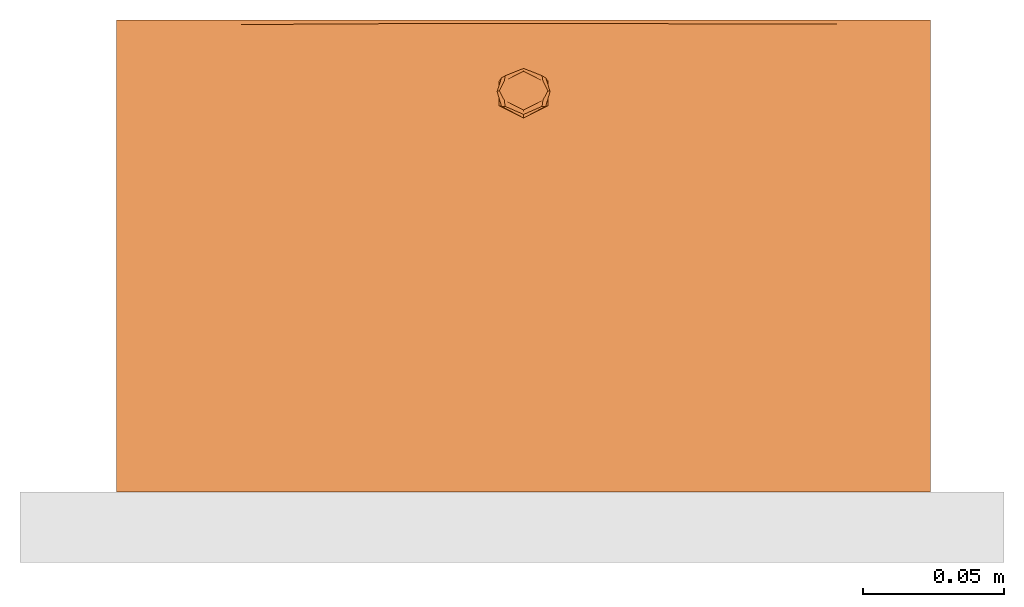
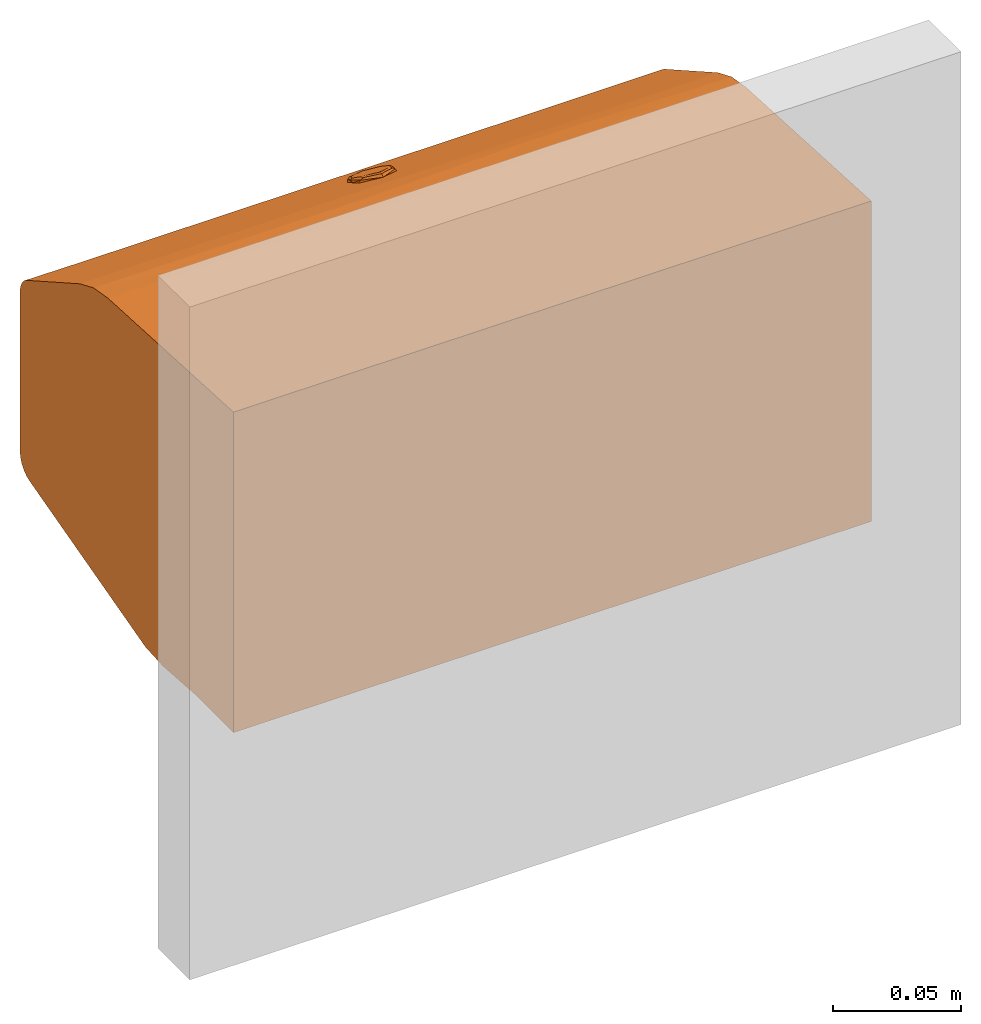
# One storey, part 2 of 2: 1 proxy.
"""IFC2X3 building model written with IfcOpenShell, lengths in millimetres."""

from ifc_helpers import new_model, entity, si_unit, converted_unit, derived_unit, direction, frame, origin, place, context, subcontext, project, spatial, faceted_brep, source, transform, mapped, material, material_list, element, save


model = new_model("IFC2X3")

# Units and contexts
model_context = context("Model", 3, precision=1e-05, world=origin(), true_north=direction((2.0, 6.12303176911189e-17, 1.0)))
context_of_model = context(None, 3, precision=1e-05, world=origin(), true_north=direction((2.0, 6.12303176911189e-17, 1.0)))
body_context = subcontext(model_context, "Body", "Model", "MODEL_VIEW")
ifc_project = project(units=[si_unit("LENGTHUNIT", "METRE", prefix="MILLI"), si_unit("AREAUNIT", "SQUARE_METRE"), si_unit("VOLUMEUNIT", "CUBIC_METRE"), converted_unit("PLANEANGLEUNIT", "DEGREE", entity("IfcRatioMeasure", 0.0174532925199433), si_unit("PLANEANGLEUNIT", "RADIAN"), dimensions=[0, 0, 0, 0, 0, 0, 0]), si_unit("MASSUNIT", "GRAM", prefix="KILO"), si_unit("TIMEUNIT", "SECOND"), si_unit("THERMODYNAMICTEMPERATUREUNIT", "KELVIN"), derived_unit("THERMALTRANSMITTANCEUNIT", [(si_unit("MASSUNIT", "GRAM", prefix="KILO"), 1), (si_unit("THERMODYNAMICTEMPERATUREUNIT", "KELVIN"), -1), (si_unit("TIMEUNIT", "SECOND"), -3)]), derived_unit("VOLUMETRICFLOWRATEUNIT", [(si_unit("LENGTHUNIT", "METRE"), 3), (si_unit("TIMEUNIT", "SECOND"), -1)]), si_unit("POWERUNIT", "WATT")], contexts=[model_context, context_of_model])

# Site, building, storey
site_placement = place(None, origin())
site = spatial("IfcSite", under=ifc_project, at=site_placement, Name="Default", CompositionType="ELEMENT")
building_placement = place(site_placement, origin())
building = spatial("IfcBuilding", under=site, at=building_placement, CompositionType="ELEMENT")
storey_placement = place(building_placement, origin())
storey = spatial("IfcBuildingStorey", under=building, at=storey_placement, Name="Level 1", CompositionType="ELEMENT", Elevation=0.0)

# Proxy
ifc_material = material(Name="White Metal")
ifc_material_list = material_list([ifc_material])
shared_shape = source(origin(), body_context, "Body", "Brep", [
    faceted_brep([(125.0, -141.014224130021, 56.5982053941), (125.0, -149.715199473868, 51.6719280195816), (116.340820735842, -145.364711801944, 54.1350667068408), (116.340820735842, -141.014224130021, 56.5982053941), (133.659179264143, -145.364711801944, 54.1350667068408), (116.340820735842, -136.663736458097, 59.0613440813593), (125.0, -132.313248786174, 61.5244827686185), (133.659179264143, -136.663736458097, 59.0613440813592), (133.659179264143, -141.014224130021, 56.5982053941), (117.182672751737, -136.467965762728, 60.2951720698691), (125.0, -134.591624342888, 62.3335412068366), (118.484568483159, -136.435443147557, 61.159283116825), (118.168601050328, -138.586823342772, 60.3161144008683), (125.0, -135.154636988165, 62.2593335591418), (118.484568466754, -147.281115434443, 55.0187312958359), (125.0, -149.236692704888, 54.0418651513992), (118.168601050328, -145.451196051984, 56.4296760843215), (116.400863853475, -141.958281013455, 58.2656339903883), (115.621853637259, -141.71590460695, 57.837539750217), (117.182672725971, -146.523423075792, 54.6020204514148), (125.0, -149.868117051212, 53.2473056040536), (125.0, -148.883382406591, 54.486456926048), (125.0, -133.585426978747, 62.4661626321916), (132.817327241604, -146.523423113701, 54.6020204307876), (131.515431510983, -147.281115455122, 55.0187312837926), (131.831398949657, -145.451196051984, 56.4296760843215), (131.515431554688, -136.435443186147, 61.1592830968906), (131.831398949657, -138.586823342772, 60.3161144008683), (133.5991361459, -141.958281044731, 58.265633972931), (134.378146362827, -141.715904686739, 57.8375397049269), (132.817327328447, -136.467965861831, 60.2951720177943), (125.0, -142.019009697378, 58.3728952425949)], [[[0, 1, 2]], [[0, 2, 3]], [[0, 4, 1]], [[0, 3, 5]], [[5, 6, 0]], [[6, 7, 0]], [[0, 7, 8]], [[0, 8, 4]], [[5, 9, 6]], [[10, 11, 12]], [[12, 13, 10]], [[14, 15, 16]], [[14, 16, 17]], [[11, 18, 17]], [[11, 17, 12]], [[14, 18, 19]], [[1, 20, 19]], [[3, 18, 9]], [[15, 21, 16]], [[18, 14, 17]], [[10, 22, 11]], [[3, 9, 5]], [[3, 19, 18]], [[16, 12, 17]], [[20, 15, 14]], [[18, 11, 9]], [[11, 22, 9]], [[6, 9, 22]], [[1, 19, 2]], [[20, 14, 19]], [[19, 3, 2]], [[4, 23, 1]], [[15, 24, 25]], [[25, 21, 15]], [[26, 10, 27]], [[26, 27, 28]], [[24, 29, 28]], [[24, 28, 25]], [[26, 29, 30]], [[6, 22, 30]], [[8, 29, 23]], [[10, 13, 27]], [[29, 26, 28]], [[15, 20, 24]], [[8, 23, 4]], [[8, 30, 29]], [[27, 25, 28]], [[22, 10, 26]], [[29, 24, 23]], [[24, 20, 23]], [[1, 23, 20]], [[6, 30, 7]], [[22, 26, 30]], [[30, 8, 7]], [[16, 21, 31]], [[31, 12, 16]], [[21, 25, 31]], [[27, 31, 25]], [[31, 27, 13]], [[31, 13, 12]]]),
    faceted_brep([(269.0, -30.0, -73.0), (269.0, 0.0, -73.0), (269.0, 0.0, 80.0), (269.0, -98.0839131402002, 74.8596399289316), (269.0, -109.465883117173, 72.9285225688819), (269.0, -120.101559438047, 68.4384397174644), (269.0, -161.926888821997, 44.7579710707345), (269.0, -163.641085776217, 43.532277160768), (269.0, -165.060365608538, 41.9745732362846), (269.0, -166.121700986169, 40.1540337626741), (269.0, -166.777960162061, 38.1515051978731), (269.0, -167.0, 36.0559157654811), (269.0, -167.0, -39.8857007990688), (269.0, -166.659258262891, -42.4738912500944), (269.0, -165.660254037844, -44.8857007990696), (269.0, -164.071067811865, -46.9567686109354), (269.0, -162.0, -48.5459548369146), (269.0, -159.588190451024, -49.544959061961), (269.0, -68.7583880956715, -73.8827312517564), (269.0, -55.1241262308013, -74.6991541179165), (267.0, -159.588190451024, -49.544959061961), (267.0, -162.0, -48.5459548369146), (267.0, -164.071067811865, -46.9567686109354), (267.0, -165.660254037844, -44.8857007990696), (267.0, -166.659258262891, -42.4738912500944), (267.0, -167.0, -39.8857007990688), (267.0, -167.0, 36.0559157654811), (267.0, -166.777960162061, 38.1515051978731), (267.0, -166.121700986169, 40.1540337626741), (267.0, -165.060365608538, 41.9745732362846), (267.0, -163.641085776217, 43.532277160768), (267.0, -161.926888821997, 44.7579710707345), (267.0, -120.101559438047, 68.4384397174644), (267.0, -109.465883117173, 72.9285225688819), (267.0, -98.0839131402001, 74.8596399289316), (267.0, 0.0, 80.0), (267.0, 0.0, -73.0), (267.0, -30.0, -73.0), (267.0, -55.1241262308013, -74.6991541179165), (267.0, -68.7583880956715, -73.8827312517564)], [[[0, 1, 2, 3, 4, 5, 6, 7, 8, 9, 10, 11, 12, 13, 14, 15, 16, 17, 18, 19]], [[20, 21, 22, 23, 24, 25, 26, 27, 28, 29, 30, 31, 32, 33, 34, 35, 36, 37, 38, 39]], [[3, 2, 35, 34]], [[3, 34, 33, 4]], [[33, 32, 5, 4]], [[6, 5, 32, 31]], [[7, 6, 31, 30]], [[8, 7, 30, 29]], [[29, 28, 9, 8]], [[10, 9, 28, 27]], [[11, 10, 27, 26]], [[12, 11, 26, 25]], [[13, 12, 25, 24]], [[14, 13, 24, 23]], [[23, 22, 15, 14]], [[16, 15, 22, 21]], [[17, 16, 21, 20]], [[18, 17, 20, 39]], [[19, 18, 39, 38]], [[0, 19, 38, 37]], [[1, 0, 37, 36]], [[2, 1, 36, 35]]]),
    faceted_brep([(-17.0, -98.0839131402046, 74.8596399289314), (-17.0, -109.465883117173, 72.9285225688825), (-17.0, -120.101559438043, 68.4384397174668), (-17.0, -161.926888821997, 44.7579710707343), (-17.0, -163.641085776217, 43.5322771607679), (-17.0, -165.060365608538, 41.9745732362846), (-17.0, -166.121700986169, 40.1540337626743), (-17.0, -166.777960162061, 38.1515051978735), (-17.0, -167.0, 36.0559157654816), (-17.0, -167.0, -39.8857007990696), (-17.0, -166.659258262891, -42.4738912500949), (-17.0, -165.660254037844, -44.8857007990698), (-17.0, -164.071067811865, -46.9567686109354), (-17.0, -162.0, -48.5459548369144), (-17.0, -159.588190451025, -49.5449590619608), (-17.0, -68.7583880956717, -73.8827312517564), (-17.0, -55.1241262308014, -74.6991541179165), (-17.0, -30.0, -73.0), (-17.0, 0.0, -73.0), (-17.0, 0.0, 80.0), (-19.0, -159.588190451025, -49.5449590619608), (-19.0, -162.0, -48.5459548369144), (-19.0, -164.071067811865, -46.9567686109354), (-19.0, -165.660254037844, -44.8857007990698), (-19.0, -166.659258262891, -42.4738912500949), (-19.0, -167.0, -39.8857007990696), (-19.0, -167.0, 36.0559157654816), (-19.0, -166.777960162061, 38.1515051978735), (-19.0, -166.121700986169, 40.1540337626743), (-19.0, -165.060365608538, 41.9745732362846), (-19.0, -163.641085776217, 43.5322771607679), (-19.0, -161.926888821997, 44.7579710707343), (-19.0, -120.101559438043, 68.4384397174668), (-19.0, -109.465883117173, 72.9285225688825), (-19.0, -98.0839131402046, 74.8596399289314), (-19.0, 0.0, 80.0), (-19.0, 0.0, -73.0), (-19.0, -30.0, -73.0), (-19.0, -55.1241262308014, -74.6991541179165), (-19.0, -68.7583880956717, -73.8827312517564)], [[[0, 1, 2, 3, 4, 5, 6, 7, 8, 9, 10, 11, 12, 13, 14, 15, 16, 17, 18, 19]], [[20, 21, 22, 23, 24, 25, 26, 27, 28, 29, 30, 31, 32, 33, 34, 35, 36, 37, 38, 39]], [[19, 18, 36, 35]], [[0, 19, 35, 34]], [[0, 34, 33, 1]], [[33, 32, 2, 1]], [[3, 2, 32, 31]], [[4, 3, 31, 30]], [[5, 4, 30, 29]], [[29, 28, 6, 5]], [[7, 6, 28, 27]], [[8, 7, 27, 26]], [[9, 8, 26, 25]], [[10, 9, 25, 24]], [[11, 10, 24, 23]], [[23, 22, 12, 11]], [[13, 12, 22, 21]], [[14, 13, 21, 20]], [[15, 14, 20, 39]], [[16, 15, 39, 38]], [[17, 16, 38, 37]], [[18, 17, 37, 36]]]),
    faceted_brep([(269.0, -30.0, -73.0), (269.0, 0.0, -73.0), (269.0, 0.0, 80.0), (269.0, -98.0839131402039, 74.8596399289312), (269.0, -109.465883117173, 72.9285225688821), (269.0, -120.101559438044, 68.4384397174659), (269.0, -161.926888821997, 44.7579710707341), (269.0, -163.641085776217, 43.5322771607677), (269.0, -165.060365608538, 41.9745732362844), (269.0, -166.121700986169, 40.1540337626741), (269.0, -166.777960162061, 38.1515051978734), (269.0, -167.0, 36.0559157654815), (269.0, -167.0, -39.8857007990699), (269.0, -166.659258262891, -42.4738912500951), (269.0, -165.660254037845, -44.8857007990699), (269.0, -164.071067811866, -46.9567686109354), (269.0, -162.0, -48.5459548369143), (269.0, -159.588190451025, -49.5449590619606), (269.0, -68.7583880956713, -73.8827312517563), (269.0, -55.1241262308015, -74.6991541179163), (269.0, -54.2152194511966, -72.7499972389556), (269.0, -68.4365239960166, -71.8984221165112), (269.0, -159.07055236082, -47.6131074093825), (269.0, -161.0, -46.8139040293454), (269.0, -162.656854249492, -45.5425550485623), (269.0, -163.928203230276, -43.8857007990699), (269.0, -164.727406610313, -41.9562531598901), (269.0, -165.0, -39.8857007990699), (269.0, -165.0, 36.0559157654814), (269.0, -163.911298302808, 40.0850541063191), (269.0, -160.941511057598, 43.0175600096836), (269.0, -119.116181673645, 66.6980286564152), (269.0, -108.905932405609, 71.0085081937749), (269.0, -97.9792412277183, 72.8623808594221), (269.0, -2.0, 77.8924397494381), (269.0, -2.0, -70.9678787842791), (269.0, -30.0, -70.967878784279), (-19.0, 0.0, 80.0), (-19.0, 0.0, -73.0), (-19.0, -30.0, -73.0), (-19.0, -30.0, -70.967878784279), (-19.0, -2.0, -70.9678787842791), (-19.0, -2.0, 77.8924397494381), (-19.0, -97.9792412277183, 72.8623808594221), (-19.0, -108.905932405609, 71.0085081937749), (-19.0, -119.116181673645, 66.6980286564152), (-19.0, -160.941511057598, 43.0175600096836), (-19.0, -163.911298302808, 40.0850541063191), (-19.0, -165.0, 36.0559157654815), (-19.0, -165.0, -39.8857007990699), (-19.0, -164.727406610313, -41.9562531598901), (-19.0, -163.928203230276, -43.8857007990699), (-19.0, -162.656854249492, -45.5425550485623), (-19.0, -161.0, -46.8139040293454), (-19.0, -159.07055236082, -47.6131074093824), (-19.0, -68.4365239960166, -71.8984221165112), (-19.0, -54.2152194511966, -72.7499972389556), (-19.0, -55.1241262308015, -74.6991541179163), (-19.0, -68.7583880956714, -73.8827312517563), (-19.0, -159.588190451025, -49.5449590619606), (-19.0, -162.0, -48.5459548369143), (-19.0, -164.071067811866, -46.9567686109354), (-19.0, -165.660254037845, -44.8857007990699), (-19.0, -166.659258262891, -42.4738912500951), (-19.0, -167.0, -39.8857007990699), (-19.0, -167.0, 36.0559157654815), (-19.0, -166.777960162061, 38.1515051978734), (-19.0, -166.121700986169, 40.1540337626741), (-19.0, -165.060365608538, 41.9745732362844), (-19.0, -163.641085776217, 43.5322771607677), (-19.0, -161.926888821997, 44.7579710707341), (-19.0, -120.101559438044, 68.4384397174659), (-19.0, -109.465883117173, 72.9285225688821), (-19.0, -98.0839131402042, 74.8596399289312), (63.8130480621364, -164.933533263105, -45.9733152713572), (36.2086959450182, -159.588190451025, -49.5449590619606), (91.4173918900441, -159.588190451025, -49.5449590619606), (158.582603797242, -159.588190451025, -49.5449590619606), (113.611678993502, -164.763909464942, -46.1882169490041), (169.395649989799, -167.0, -39.8857007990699), (125.0, -167.0, -39.8857007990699), (80.604343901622, -167.0, -39.8857007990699), (186.186958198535, -164.933533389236, -45.9733151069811), (36.2086939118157, -167.0, -39.8857007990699), (213.791299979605, -167.0, -39.8857007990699), (213.791299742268, -159.588190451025, -49.5449590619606), (30.3801570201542, -159.07055236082, -47.6131074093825), (52.9999988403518, -159.07055236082, -47.6131074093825), (89.0000005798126, -159.07055236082, -47.6131074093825), (125.0, -159.07055236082, -47.6131074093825), (160.999999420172, -159.07055236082, -47.6131074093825), (197.000001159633, -159.07055236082, -47.6131074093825), (219.619840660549, -159.07055236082, -47.6131074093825), (208.309922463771, -163.346826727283, -44.755792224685), (41.6900865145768, -163.346826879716, -44.7557920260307), (107.000005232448, -163.441019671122, -44.6305153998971), (219.61984009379, -165.0, -39.8857007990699), (30.380158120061, -165.0, -39.8857007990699), (147.612965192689, -163.438680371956, -44.6336893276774), (178.520636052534, -165.0, -39.8857007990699), (79.7603180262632, -165.0, -39.8857007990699), (129.140477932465, -165.0, -39.8857007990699), (104.450386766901, -98.0839131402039, 74.8596399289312), (207.274793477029, -98.0839131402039, 74.8596399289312), (213.791301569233, -167.0, 36.0559157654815), (158.582607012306, -167.0, 36.0559157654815), (114.186954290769, -167.0, 36.0559157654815), (69.7913015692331, -167.0, 36.0559157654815), (36.2086945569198, -167.0, 36.0559157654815), (26.2396818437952, -165.0, 36.0559157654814), (71.479363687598, -165.0, 36.0559157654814), (120.859529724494, -165.0, 36.0559157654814), (170.239681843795, -165.0, 36.0559157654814), (219.619833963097, -165.0, 36.0559157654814), (11.4367708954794, -163.48401819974, 40.7417996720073), (30.3801629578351, -160.941511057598, 43.0175600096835), (41.6900843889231, -163.975648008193, 39.9725897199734), (75.2833285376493, -163.80678984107, 40.2592016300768), (107.000004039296, -163.832323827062, 40.2175682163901), (174.608006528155, -163.811444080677, 40.2516552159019), (161.00000134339, -160.941511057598, 43.0175600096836), (197.000000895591, -160.941511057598, 43.0175600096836), (208.309922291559, -163.91129830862, 40.0850540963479), (125.000001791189, -160.941511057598, 43.0175600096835), (143.00000333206, -164.007137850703, 39.9159700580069), (219.619840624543, -160.941511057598, 43.0175600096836), (238.654961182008, -164.281089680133, 39.370389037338), (53.0000026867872, -160.941511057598, 43.0175600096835), (89.0000022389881, -160.941511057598, 43.0175600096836), (101.956216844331, -119.116181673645, 66.6980286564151), (208.521891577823, -119.116181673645, 66.6980286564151), (67.8020138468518, -110.412865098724, 70.5420269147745), (155.23904778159, -109.481716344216, 70.8366695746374), (41.4781486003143, -97.9792412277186, 72.862380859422), (197.0, -97.9792412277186, 72.862380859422), (125.0, -97.9792412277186, 72.862380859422), (155.862598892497, -108.978707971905, 73.0679270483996), (69.1117528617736, -112.322527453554, 72.0014579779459), (124.999975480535, -120.101559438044, 68.4384397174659), (36.2086960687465, -161.926888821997, 44.7579710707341), (80.6043503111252, -161.926888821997, 44.7579710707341), (124.999995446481, -161.926888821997, 44.7579710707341), (160.999994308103, -161.926888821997, 44.7579710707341), (196.999993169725, -161.926888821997, 44.7579710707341), (241.395656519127, -161.926888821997, 44.7579710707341), (136.38478506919, -165.805205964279, 40.7959946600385), (178.526360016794, -165.665613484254, 41.0466214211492), (16.6082185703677, -165.639123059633, 41.0923383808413), (53.0000045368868, -165.639123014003, 41.0923384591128), (219.34887285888, -165.416885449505, 41.4555490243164), (95.2012046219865, -165.707747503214, 40.9727372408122)], [[[0, 1, 2, 3, 4, 5, 6, 7, 8, 9, 10, 11, 12, 13, 14, 15, 16, 17, 18, 19, 20, 21, 22, 23, 24, 25, 26, 27, 28, 29, 30, 31, 32, 33, 34, 35, 36]], [[37, 38, 39, 40, 41, 42, 43, 44, 45, 46, 47, 48, 49, 50, 51, 52, 53, 54, 55, 56, 57, 58, 59, 60, 61, 62, 63, 64, 65, 66, 67, 68, 69, 70, 71, 72, 73]], [[74, 61, 75]], [[76, 77, 78]], [[79, 80, 81, 78]], [[79, 78, 82]], [[74, 75, 76]], [[63, 83, 64]], [[13, 12, 84]], [[15, 85, 16]], [[82, 77, 85]], [[61, 74, 62]], [[60, 59, 75]], [[16, 85, 17]], [[82, 84, 79]], [[62, 74, 83]], [[74, 76, 78]], [[82, 15, 14]], [[60, 75, 61]], [[84, 14, 13]], [[62, 83, 63]], [[14, 84, 82]], [[78, 81, 74]], [[82, 85, 15]], [[82, 78, 77]], [[81, 83, 74]], [[18, 17, 85, 77, 76, 75, 59, 58]], [[19, 18, 58, 57]], [[20, 19, 57, 56]], [[21, 20, 56, 55]], [[22, 21, 55, 54, 86, 87, 88, 89, 90, 91, 92]], [[25, 24, 93]], [[94, 95, 88]], [[23, 92, 24]], [[94, 52, 51]], [[25, 96, 26]], [[50, 97, 51]], [[87, 86, 94, 88]], [[95, 98, 89]], [[93, 98, 99]], [[96, 25, 93]], [[50, 49, 97]], [[96, 27, 26]], [[86, 54, 53]], [[92, 23, 22]], [[94, 51, 97]], [[52, 94, 86]], [[93, 92, 91, 90]], [[94, 97, 100]], [[53, 52, 86]], [[92, 93, 24]], [[98, 90, 89]], [[96, 93, 99]], [[101, 98, 95]], [[89, 88, 95]], [[95, 100, 101]], [[100, 95, 94]], [[90, 98, 93]], [[98, 101, 99]], [[35, 34, 42, 41]], [[1, 0, 39, 38]], [[2, 1, 38, 37]], [[2, 37, 73, 102, 103, 3]], [[11, 104, 105, 106, 107, 108, 65, 64, 83, 81, 80, 79, 84, 12]], [[27, 96, 99, 101, 100, 97, 49, 48, 109, 110, 111, 112, 113, 28]], [[114, 115, 116]], [[114, 47, 46]], [[117, 118, 110]], [[119, 120, 121]], [[109, 114, 116]], [[122, 113, 112]], [[123, 124, 118]], [[122, 121, 125]], [[126, 122, 125]], [[116, 110, 109]], [[109, 48, 114]], [[28, 126, 29]], [[116, 115, 127]], [[111, 110, 118]], [[126, 125, 30]], [[119, 124, 120]], [[113, 122, 126]], [[123, 118, 128]], [[124, 112, 111]], [[124, 123, 120]], [[127, 117, 116]], [[112, 124, 119]], [[113, 126, 28]], [[30, 29, 126]], [[117, 128, 118]], [[111, 118, 124]], [[115, 114, 46]], [[48, 47, 114]], [[128, 117, 127]], [[117, 110, 116]], [[119, 122, 112]], [[122, 119, 121]], [[30, 125, 121, 120, 123, 128, 127, 115, 46, 45, 129, 130, 31]], [[129, 131, 132]], [[131, 44, 133]], [[132, 134, 32]], [[32, 31, 130]], [[132, 130, 129]], [[130, 132, 32]], [[135, 132, 131]], [[44, 43, 133]], [[33, 32, 134]], [[131, 129, 45]], [[135, 131, 133]], [[44, 131, 45]], [[132, 135, 134]], [[34, 33, 134, 135, 133, 43, 42]], [[36, 35, 41, 40]], [[0, 36, 40, 39]], [[136, 5, 4]], [[102, 137, 136]], [[138, 136, 137]], [[138, 137, 71]], [[4, 3, 103]], [[102, 73, 72]], [[103, 102, 136]], [[103, 136, 4]], [[137, 102, 72]], [[136, 138, 5]], [[71, 137, 72]], [[5, 138, 71, 70, 139, 140, 141, 142, 143, 144, 6]], [[142, 145, 146]], [[139, 147, 148]], [[148, 108, 107]], [[108, 148, 147]], [[147, 68, 67]], [[104, 11, 10]], [[66, 65, 108]], [[70, 69, 139]], [[7, 6, 144]], [[149, 143, 146]], [[7, 144, 8]], [[142, 141, 145]], [[150, 107, 106]], [[139, 69, 147]], [[10, 9, 149]], [[149, 8, 144]], [[108, 147, 66]], [[150, 145, 141]], [[9, 8, 149]], [[147, 69, 68]], [[140, 139, 148]], [[147, 67, 66]], [[145, 150, 106]], [[105, 145, 106]], [[145, 105, 146]], [[150, 141, 140]], [[105, 104, 146]], [[149, 146, 104]], [[140, 148, 150]], [[107, 150, 148]], [[146, 143, 142]], [[149, 104, 10]], [[143, 149, 144]]]),
])
proxy_placement = place(storey_placement, frame((1342.02697741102, 3977.69853342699, 141.189154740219), z_axis=(0.0, 0.0, 1.0), x_axis=(-1.0, 0.0, 0.0)))
element("IfcBuildingElementProxy", 1, at=proxy_placement, inside=storey, material=ifc_material_list, Name="BC770-10W:BC770-10W Dolphin Couch White Metal Roll Dispenser", ObjectType="BC770-10W Dolphin Couch White Metal Roll Dispenser", CompositionType="ELEMENT", context=body_context, shape_type="MappedRepresentation", body=[
    mapped(shared_shape, transform((0.0, 0.0, 0.0), scale=1.0)),
])

save(model, "model.ifc")
